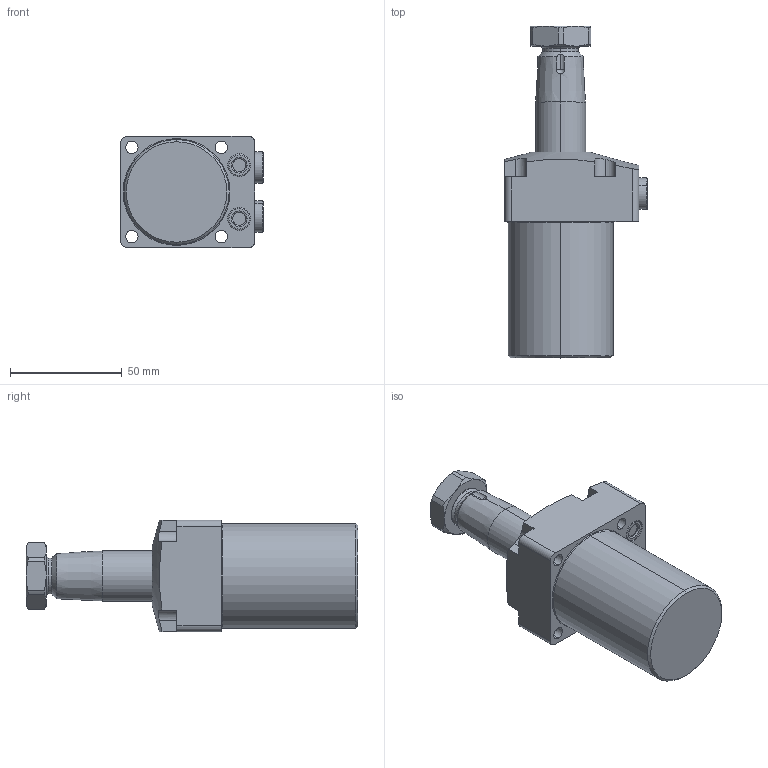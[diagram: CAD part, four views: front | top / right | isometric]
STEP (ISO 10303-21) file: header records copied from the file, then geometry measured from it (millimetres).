
FILE_DESCRIPTION(/* description */ (''),/* implementation_level */ '2;1');
FILE_NAME(/* name */ 'TRC04-L.stp',/* time_stamp */ '2025-01-04T08:38:16+08:00',/* author */ (''),/* organization */ (''),/* preprocessor_version */ 'ST-DEVELOPER v16.7',/* originating_system */ 'SIEMENS PLM Software NX 12.0',/* authorisation */ '');
FILE_SCHEMA (('AUTOMOTIVE_DESIGN { 1 0 10303 214 3 1 1 1 }'));
Length unit declared in the file: millimetre
Products named in the file (5): TRC04-L-04; TRC04-L-03; TRC04-L-02; TRC04-L-01; TRC04-L_stp
Assembly tree (5 placements, depth 2):
  TRC04-L_stp
    TRC04-L-01
    TRC04-L-02
    TRC04-L-03  x2
    TRC04-L-04
Bounding box: 63.8 x 148.5 x 50 mm (x, y, z)
Volume: 201715.1 mm3; surface area: 32792.3 mm2
Topology: 5 solids, 7 shells, 203 faces, 465 edges, 288 vertices
Faces by surface type: cylinder 73, plane 67, cone 40, torus 22, sphere 1
Entity records: 5434 total; most frequent: CARTESIAN_POINT 1110, DIRECTION 938, ORIENTED_EDGE 836, EDGE_CURVE 418, AXIS2_PLACEMENT_3D 386, VERTEX_POINT 260, EDGE_LOOP 206, CIRCLE 199
